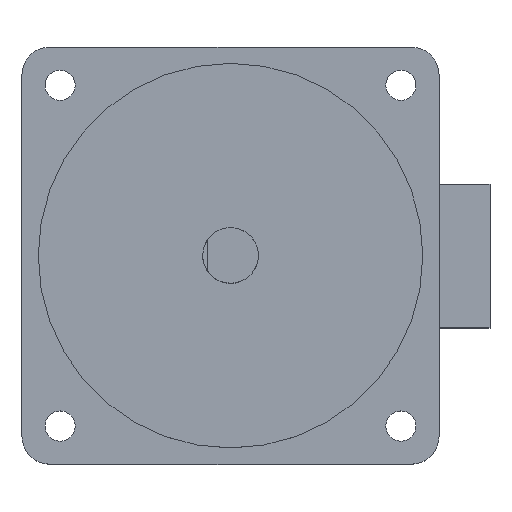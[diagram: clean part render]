
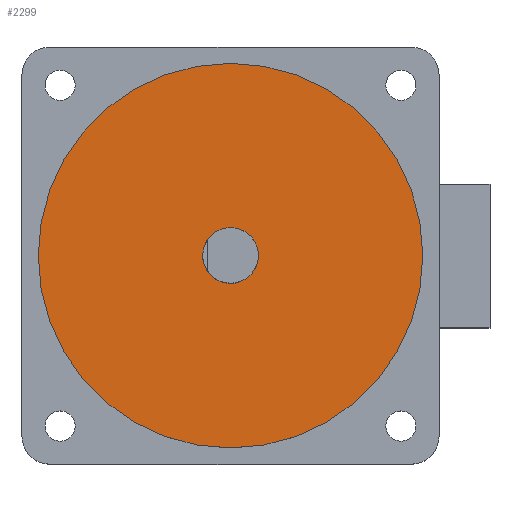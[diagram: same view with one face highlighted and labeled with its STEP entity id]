
A CAD part, top view. The second image highlights one B-rep face of the part: STEP entity #2299.
In plain terms, the highlighted planar face has unit normal (0, 0, 1).
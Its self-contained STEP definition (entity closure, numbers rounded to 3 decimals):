
#2256=CARTESIAN_POINT('',(6.,0.,82.0));
#2257=VERTEX_POINT('',#2256);
#2258=CARTESIAN_POINT('',(0.,0.0,82.0));
#2259=DIRECTION('',(0.0,0.0,-1.0));
#2260=DIRECTION('',(-1.0,0.0,0.0));
#2261=AXIS2_PLACEMENT_3D('',#2258,#2259,#2260);
#2262=CIRCLE('',#2261,6.);
#2263=EDGE_CURVE('',#2257,#2257,#2262,.T.);
#2273=CARTESIAN_POINT('',(41.5,0.,82.0));
#2274=VERTEX_POINT('',#2273);
#2275=CARTESIAN_POINT('',(0.,0.0,82.0));
#2276=DIRECTION('',(0.0,0.0,-1.0));
#2277=DIRECTION('',(-1.0,0.0,0.0));
#2278=AXIS2_PLACEMENT_3D('',#2275,#2276,#2277);
#2279=CIRCLE('',#2278,41.5);
#2280=EDGE_CURVE('',#2274,#2274,#2279,.T.);
#2288=CARTESIAN_POINT('',(0.,0.0,82.0));
#2289=DIRECTION('',(0.0,0.0,-1.0));
#2290=DIRECTION('',(-1.0,0.0,0.0));
#2291=AXIS2_PLACEMENT_3D('',#2288,#2289,#2290);
#2292=PLANE('',#2291);
#2293=ORIENTED_EDGE('',*,*,#2280,.F.);
#2294=EDGE_LOOP('',(#2293));
#2295=FACE_OUTER_BOUND('',#2294,.T.);
#2296=ORIENTED_EDGE('',*,*,#2263,.T.);
#2297=EDGE_LOOP('',(#2296));
#2298=FACE_BOUND('',#2297,.T.);
#2299=ADVANCED_FACE('',(#2295,#2298),#2292,.F.);
